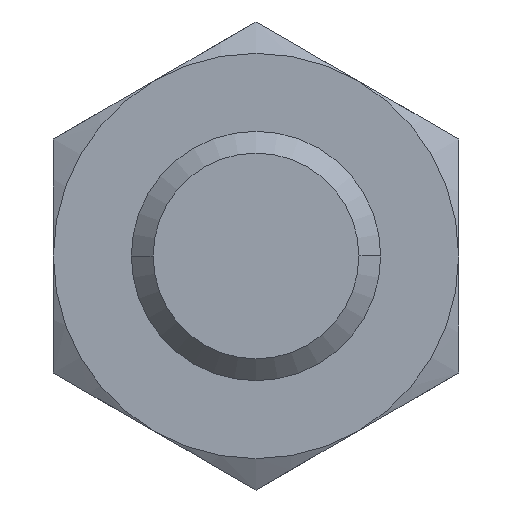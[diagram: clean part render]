
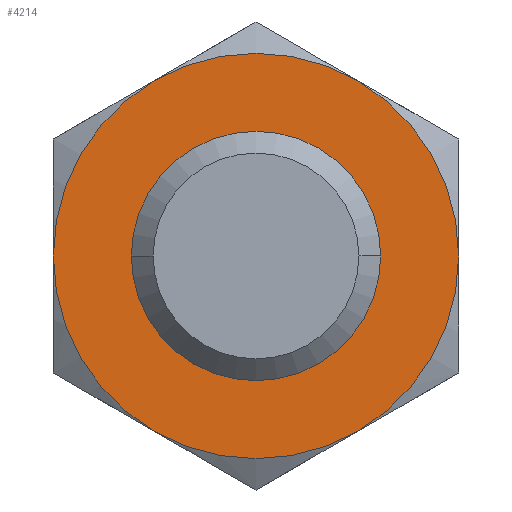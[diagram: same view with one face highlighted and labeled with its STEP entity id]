
A CAD part, left-side view. The second image highlights one B-rep face of the part: STEP entity #4214.
In plain terms, the highlighted planar face has unit normal (-1, 0, 0).
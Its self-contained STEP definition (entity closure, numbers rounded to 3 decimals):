
#2185=CARTESIAN_POINT('',(-45.,0.,0.));
#2186=DIRECTION('',(1.,0.,0.));
#2187=DIRECTION('',(0.,0.5,-0.866));
#2188=AXIS2_PLACEMENT_3D('',#2185,#2186,#2187);
#2193=CARTESIAN_POINT('',(-45.,0.,0.));
#2194=DIRECTION('',(1.,0.,0.));
#2195=DIRECTION('',(0.,0.866,-0.5));
#2196=AXIS2_PLACEMENT_3D('',#2193,#2194,#2195);
#2201=CARTESIAN_POINT('',(-45.,0.,0.));
#2202=DIRECTION('',(1.,0.,0.));
#2203=DIRECTION('',(0.,1.,0.));
#2204=AXIS2_PLACEMENT_3D('',#2201,#2202,#2203);
#2209=CARTESIAN_POINT('',(-45.,0.,0.));
#2210=DIRECTION('',(1.,0.,0.));
#2211=DIRECTION('',(0.,0.5,0.866));
#2212=AXIS2_PLACEMENT_3D('',#2209,#2210,#2211);
#2217=CARTESIAN_POINT('',(-45.,0.,0.));
#2218=DIRECTION('',(1.,0.,0.));
#2219=DIRECTION('',(0.,-0.5,0.866));
#2220=AXIS2_PLACEMENT_3D('',#2217,#2218,#2219);
#2225=CARTESIAN_POINT('',(-45.,0.,0.));
#2226=DIRECTION('',(1.,0.,0.));
#2227=DIRECTION('',(0.,-0.866,0.5));
#2228=AXIS2_PLACEMENT_3D('',#2225,#2226,#2227);
#2233=CARTESIAN_POINT('',(-45.,0.,0.));
#2234=DIRECTION('',(1.,0.,0.));
#2235=DIRECTION('',(0.,-1.,0.));
#2236=AXIS2_PLACEMENT_3D('',#2233,#2234,#2235);
#2241=CARTESIAN_POINT('',(-45.,0.,0.));
#2242=DIRECTION('',(1.,0.,0.));
#2243=DIRECTION('',(0.,-0.5,-0.866));
#2244=AXIS2_PLACEMENT_3D('',#2241,#2242,#2243);
#2760=CARTESIAN_POINT('',(-45.,0.,0.));
#2761=DIRECTION('',(-1.,0.,0.));
#2762=DIRECTION('',(0.,1.,0.));
#2763=AXIS2_PLACEMENT_3D('',#2760,#2761,#2762);
#3397=CARTESIAN_POINT('',(-45.,0.,0.));
#3398=DIRECTION('',(-1.,0.,0.));
#3399=DIRECTION('',(0.,-1.,0.));
#3400=AXIS2_PLACEMENT_3D('',#3397,#3398,#3399);
#4035=CARTESIAN_POINT('',(-45.,5.629,-3.25));
#4036=CARTESIAN_POINT('',(-45.,6.5,0.));
#4037=VERTEX_POINT('',#4035);
#4038=VERTEX_POINT('',#4036);
#4039=CARTESIAN_POINT('',(-45.,3.25,-5.629));
#4040=VERTEX_POINT('',#4039);
#4041=CARTESIAN_POINT('',(-45.,3.25,5.629));
#4042=VERTEX_POINT('',#4041);
#4043=CARTESIAN_POINT('',(-45.,-3.25,5.629));
#4044=VERTEX_POINT('',#4043);
#4045=CARTESIAN_POINT('',(-45.,-5.629,3.25));
#4046=CARTESIAN_POINT('',(-45.,-6.5,0.));
#4047=VERTEX_POINT('',#4045);
#4048=VERTEX_POINT('',#4046);
#4049=CARTESIAN_POINT('',(-45.,-3.25,-5.629));
#4050=VERTEX_POINT('',#4049);
#4093=CARTESIAN_POINT('',(-45.,4.,0.));
#4094=CARTESIAN_POINT('',(-45.,-4.,0.));
#4095=VERTEX_POINT('',#4093);
#4096=VERTEX_POINT('',#4094);
#4186=CARTESIAN_POINT('',(-45.,0.,0.));
#4187=DIRECTION('',(1.,0.,0.));
#4188=DIRECTION('',(0.,-1.,0.));
#4189=AXIS2_PLACEMENT_3D('',#4186,#4187,#4188);
#4190=PLANE('',#4189);
#4192=ORIENTED_EDGE('',*,*,#4191,.T.);
#4194=ORIENTED_EDGE('',*,*,#4193,.T.);
#4196=ORIENTED_EDGE('',*,*,#4195,.T.);
#4197=ORIENTED_EDGE('',*,*,#4179,.T.);
#4199=ORIENTED_EDGE('',*,*,#4198,.T.);
#4201=ORIENTED_EDGE('',*,*,#4200,.T.);
#4203=ORIENTED_EDGE('',*,*,#4202,.T.);
#4205=ORIENTED_EDGE('',*,*,#4204,.T.);
#4206=EDGE_LOOP('',(#4192,#4194,#4196,#4197,#4199,#4201,#4203,#4205));
#4207=FACE_OUTER_BOUND('',#4206,.F.);
#4209=ORIENTED_EDGE('',*,*,#4208,.T.);
#4211=ORIENTED_EDGE('',*,*,#4210,.T.);
#4212=EDGE_LOOP('',(#4209,#4211));
#4213=FACE_BOUND('',#4212,.F.);
#2189=CIRCLE('',#2188,6.5);
#2197=CIRCLE('',#2196,6.5);
#2205=CIRCLE('',#2204,6.5);
#2213=CIRCLE('',#2212,6.5);
#2221=CIRCLE('',#2220,6.5);
#2229=CIRCLE('',#2228,6.5);
#2237=CIRCLE('',#2236,6.5);
#2245=CIRCLE('',#2244,6.5);
#2764=CIRCLE('',#2763,4.);
#3401=CIRCLE('',#3400,4.);
#4179=EDGE_CURVE('',#4042,#4044,#2213,.T.);
#4191=EDGE_CURVE('',#4040,#4037,#2189,.T.);
#4193=EDGE_CURVE('',#4037,#4038,#2197,.T.);
#4195=EDGE_CURVE('',#4038,#4042,#2205,.T.);
#4198=EDGE_CURVE('',#4044,#4047,#2221,.T.);
#4200=EDGE_CURVE('',#4047,#4048,#2229,.T.);
#4202=EDGE_CURVE('',#4048,#4050,#2237,.T.);
#4204=EDGE_CURVE('',#4050,#4040,#2245,.T.);
#4208=EDGE_CURVE('',#4095,#4096,#2764,.T.);
#4210=EDGE_CURVE('',#4096,#4095,#3401,.T.);
#4214=ADVANCED_FACE('',(#4207,#4213),#4190,.F.);
